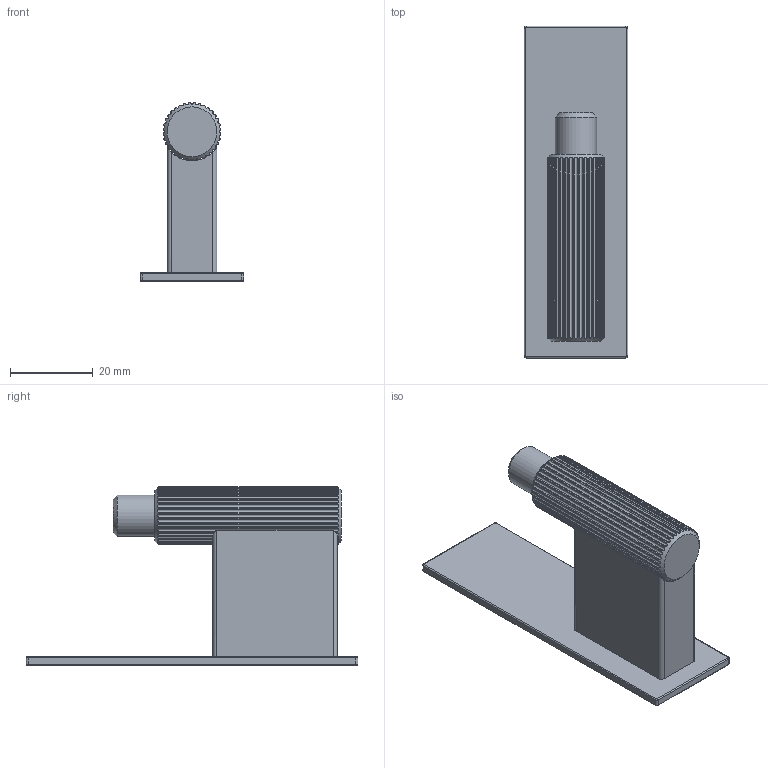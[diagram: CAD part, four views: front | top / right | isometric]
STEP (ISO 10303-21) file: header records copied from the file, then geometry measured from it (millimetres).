
FILE_DESCRIPTION(/* description */ (''),/* implementation_level */ '2;1');
FILE_NAME(/* name */ 'M:\Modelat 3D dels productes\7036_ARPA\7036_03.stp',/* time_stamp */ '2023-01-03T10:15:14+01:00',/* author */ ('jferrer'),/* organization */ (''),/* preprocessor_version */ 'ST-DEVELOPER v18.1',/* originating_system */ 'Autodesk Inventor 2022',/* authorisation */ '');
FILE_SCHEMA (('CONFIG_CONTROL_DESIGN'));
Length unit declared in the file: millimetre
Products named in the file (7): 7036_03; 7036_PART B_01; TORNILLO AVELLANADO PRISIONERO M4x14; 0581_BARRA T 65_00; Wall hook screw Allen M5_10; 7036_PART C_04; 7036_PART D_placa 80x25_01
Assembly tree (6 placements, depth 2):
  7036_03
    7036_PART B_01
    TORNILLO AVELLANADO PRISIONERO M4x14
    0581_BARRA T 65_00
    Wall hook screw Allen M5_10
    7036_PART C_04
    7036_PART D_placa 80x25_01
Bounding box: 25 x 80 x 42.98 mm (x, y, z)
Volume: 19725.7 mm3; surface area: 13524.5 mm2
Topology: 6 solids, 6 shells, 243 faces, 672 edges, 440 vertices
Faces by surface type: cylinder 185, plane 40, cone 10, bspline 8
Full cylindrical faces by diameter (mm): 2 x1, 3.242 x1, 3.85 x1, 4 x1, 4.134 x1, 4.5 x1, 5 x1, 10 x1
Entity records: 10628 total; most frequent: CARTESIAN_POINT 4568, ORIENTED_EDGE 1338, DIRECTION 1060, EDGE_CURVE 669, VERTEX_POINT 440, AXIS2_PLACEMENT_3D 396, LINE 268, VECTOR 268
